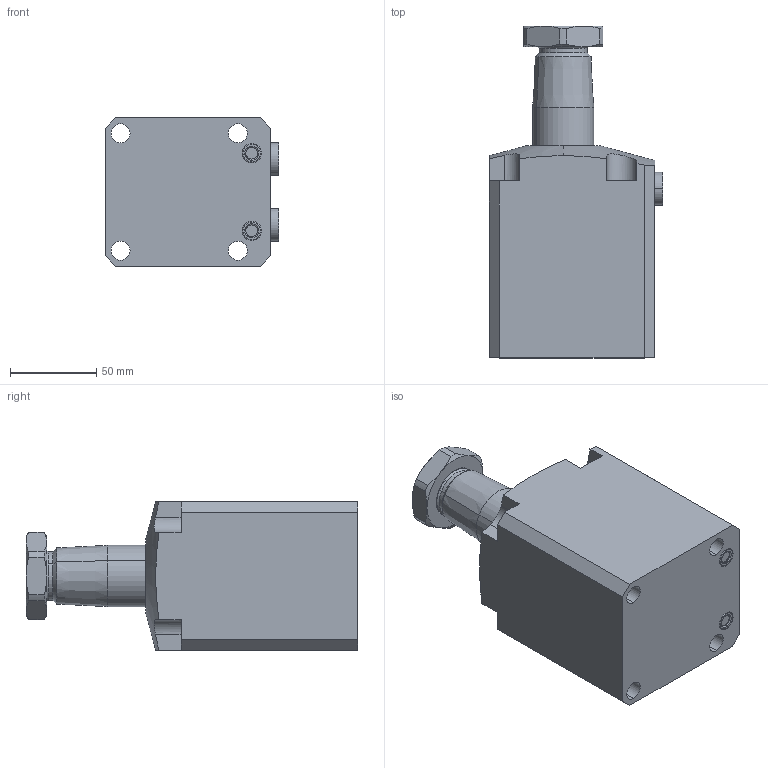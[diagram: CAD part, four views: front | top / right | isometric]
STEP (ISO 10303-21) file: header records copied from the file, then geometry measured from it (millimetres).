
FILE_DESCRIPTION(/* description */ (''),/* implementation_level */ '2;1');
FILE_NAME(/* name */ 'BRC16-RN30.stp',/* time_stamp */ '2025-01-04T15:24:46+08:00',/* author */ (''),/* organization */ (''),/* preprocessor_version */ 'ST-DEVELOPER v16.7',/* originating_system */ 'SIEMENS PLM Software NX 12.0',/* authorisation */ '');
FILE_SCHEMA (('AUTOMOTIVE_DESIGN { 1 0 10303 214 3 1 1 1 }'));
Length unit declared in the file: millimetre
Products named in the file (5): BRC16-RN30-04; BRC16-RN30-03; BRC16-RN30-02; BRC16-RN30-01; BTU16-RN30_step
Assembly tree (5 placements, depth 2):
  BTU16-RN30_step
    BRC16-RN30-01
    BRC16-RN30-02
    BRC16-RN30-03  x2
    BRC16-RN30-04
Bounding box: 100.8 x 192.3 x 86 mm (x, y, z)
Volume: 975512.6 mm3; surface area: 92546.9 mm2
Topology: 7 solids, 7 shells, 176 faces, 401 edges, 248 vertices
Faces by surface type: plane 68, cylinder 57, cone 34, torus 16, sphere 1
Full cylindrical faces by diameter (mm): 13.15 x2
Entity records: 4667 total; most frequent: CARTESIAN_POINT 964, DIRECTION 778, ORIENTED_EDGE 712, EDGE_CURVE 356, AXIS2_PLACEMENT_3D 313, VERTEX_POINT 222, EDGE_LOOP 180, ADVANCED_FACE 156
